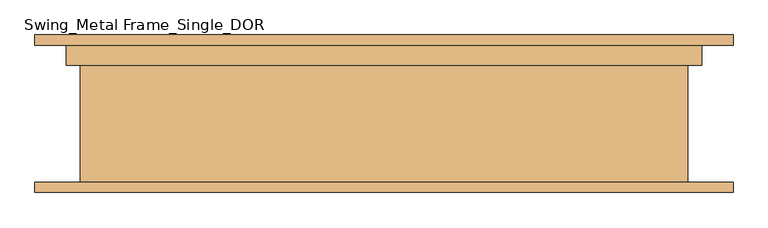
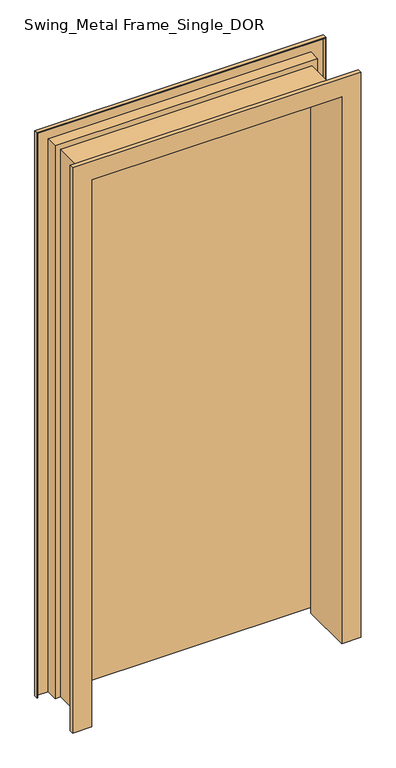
"""IFC4 building model written with IfcOpenShell, lengths in millimetres: door geometry, Swing_Metal Frame_Single_DOR : 2040h x 920 (2110x1020 STUD)."""

from ifc_helpers import new_model, si_unit, frame, origin, place, context, project, spatial, polyline, outline, extrude, faceted_brep, source, transform, mapped, element, save


def swing_metal_frame_single_dor_f69b6a02(model_context):
    return source(origin(), model_context, "Body", "SolidModel", [
        extrude(outline(polyline([(460.0, 115.0), (460.0, 75.0), (-460.0, 75.0), (-460.0, 115.0), (460.0, 115.0)])), frame((0.0, 0.0, 20.0), z_axis=(0.0, 0.0, 1.0), x_axis=(1.0, 0.0, 0.0)), (0.0, 0.0, 1.0), 2040.0),
        faceted_brep([(-510.0, -115.0, 0.0), (-510.0, -100.0, 0.0), (-508.0, -100.0, 0.0), (-508.0, -113.0, 0.0), (-444.0, -113.0, 0.0), (-444.0, 71.0, 0.0), (-464.0, 71.0, 0.0), (-464.0, 113.0, 0.0), (-508.0, 113.0, 0.0), (-508.0, 100.0, 0.0), (-510.0, 100.0, 0.0), (-510.0, 115.0, 0.0), (-462.0, 115.0, 0.0), (-462.0, 73.0, 0.0), (-442.0, 73.0, 0.0), (-442.0, -115.0, 0.0), (-510.0, -115.0, 2110.0), (-510.0, -100.0, 2110.0), (510.0, -100.0, 2110.0), (510.0, -100.0, 0.0), (508.0, -100.0, 0.0), (508.0, -100.0, 2108.0), (-508.0, -100.0, 2108.0), (-508.0, -113.0, 2108.0), (508.0, -113.0, 2108.0), (508.0, -113.0, 0.0), (444.0, -113.0, 0.0), (444.0, -113.0, 2044.0), (-444.0, -113.0, 2044.0), (-444.0, 71.0, 2044.0), (444.0, 71.0, 2044.0), (444.0, 71.0, 0.0), (464.0, 71.0, 0.0), (464.0, 71.0, 2064.0), (-464.0, 71.0, 2064.0), (-464.0, 113.0, 2064.0), (464.0, 113.0, 2064.0), (464.0, 113.0, 0.0), (508.0, 113.0, 0.0), (508.0, 113.0, 2108.0), (-508.0, 113.0, 2108.0), (-508.0, 100.0, 2108.0), (508.0, 100.0, 2108.0), (508.0, 100.0, 0.0), (510.0, 100.0, 0.0), (510.0, 100.0, 2110.0), (-510.0, 100.0, 2110.0), (-510.0, 115.0, 2110.0), (510.0, 115.0, 2110.0), (510.0, 115.0, 0.0), (462.0, 115.0, 0.0), (462.0, 115.0, 2062.0), (-462.0, 115.0, 2062.0), (-462.0, 73.0, 2062.0), (462.0, 73.0, 2062.0), (462.0, 73.0, 0.0), (442.0, 73.0, 0.0), (442.0, 73.0, 2042.0), (-442.0, 73.0, 2042.0), (-442.0, -115.0, 2042.0), (442.0, -115.0, 2042.0), (442.0, -115.0, 0.0), (510.0, -115.0, 0.0), (510.0, -115.0, 2110.0)], [[[0, 1, 2, 3, 4, 5, 6, 7, 8, 9, 10, 11, 12, 13, 14, 15]], [[1, 0, 16, 17]], [[2, 1, 17, 18, 19, 20, 21, 22]], [[3, 2, 22, 23]], [[4, 3, 23, 24, 25, 26, 27, 28]], [[5, 4, 28, 29]], [[6, 5, 29, 30, 31, 32, 33, 34]], [[7, 6, 34, 35]], [[8, 7, 35, 36, 37, 38, 39, 40]], [[9, 8, 40, 41]], [[10, 9, 41, 42, 43, 44, 45, 46]], [[11, 10, 46, 47]], [[12, 11, 47, 48, 49, 50, 51, 52]], [[13, 12, 52, 53]], [[14, 13, 53, 54, 55, 56, 57, 58]], [[15, 14, 58, 59]], [[0, 15, 59, 60, 61, 62, 63, 16]], [[18, 63, 62, 19]], [[62, 61, 56, 55, 50, 49, 44, 43, 38, 37, 32, 31, 26, 25, 20, 19]], [[24, 21, 20, 25]], [[30, 27, 26, 31]], [[36, 33, 32, 37]], [[42, 39, 38, 43]], [[48, 45, 44, 49]], [[54, 51, 50, 55]], [[60, 57, 56, 61]], [[17, 16, 63, 18]], [[23, 22, 21, 24]], [[29, 28, 27, 30]], [[35, 34, 33, 36]], [[41, 40, 39, 42]], [[47, 46, 45, 48]], [[53, 52, 51, 54]], [[59, 58, 57, 60]]]),
    ])


if __name__ == "__main__":
    model = new_model("IFC4")
    model_context = context("Model", 3, world=origin())
    ifc_project = project(units=[si_unit("LENGTHUNIT", "METRE", prefix="MILLI")], contexts=[model_context])
    site = spatial("IfcSite", under=ifc_project)
    building = spatial("IfcBuilding", under=site)
    placement = place(None, origin())
    swing_metal_frame_single_dor_shape = swing_metal_frame_single_dor_f69b6a02(model_context)
    element("IfcDoor", 1, ObjectType="Swing_Metal Frame_Single_DOR : 2040h x 920 (2110x1020 STUD)", at=placement, inside=building, context=model_context, shape_type="MappedRepresentation", body=[
        mapped(swing_metal_frame_single_dor_shape, transform((0.0, 0.0, 0.0), x_axis=(1.0, 0.0, 0.0), y_axis=(0.0, 1.0, 0.0), z_axis=(0.0, 0.0, 1.0))),
    ])
    save(model, "model.ifc")
